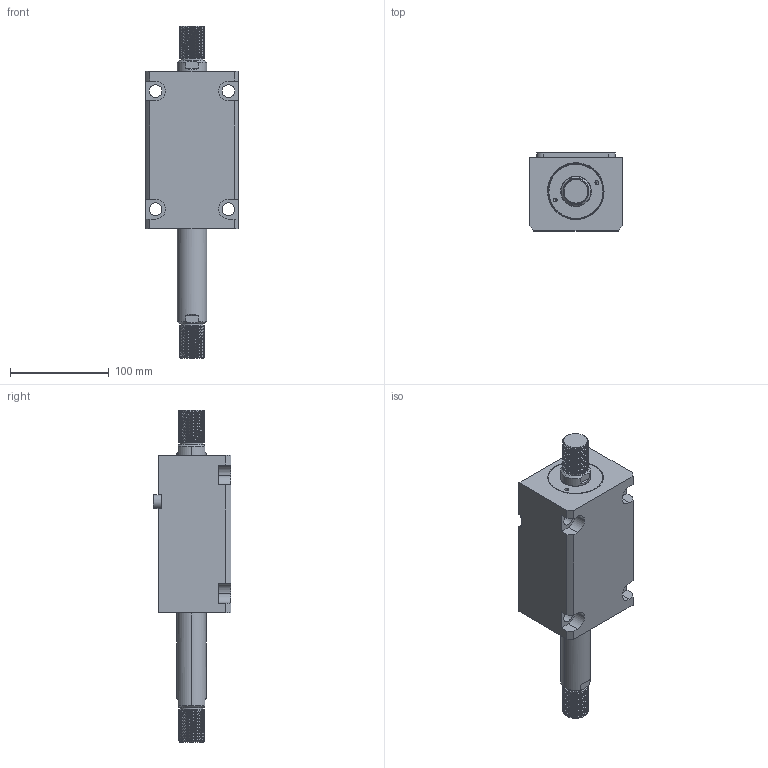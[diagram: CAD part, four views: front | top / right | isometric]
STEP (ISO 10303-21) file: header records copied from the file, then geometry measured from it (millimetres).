
FILE_DESCRIPTION (( 'STEP AP203' ), '1' );
FILE_NAME ('CHTB-LWM50-85W.STEP', '2018-05-22T06:43:06', ( '' ), ( '' ), 'SwSTEP 2.0', 'SolidWorks 2015', '' );
FILE_SCHEMA (( 'CONFIG_CONTROL_DESIGN' ));
Length unit declared in the file: millimetre
Products named in the file (4): 活塞杆LWM50-85W; CHTM-SDMA50QG; 掛极LWM50-85W; CHTB-LWM50-85W
Assembly tree (3 placements, depth 2):
  CHTB-LWM50-85W
    掛极LWM50-85W
    CHTM-SDMA50QG
    活塞杆LWM50-85W
Bounding box: 94 x 79 x 337 mm (x, y, z)
Volume: 1061725.9 mm3; surface area: 157294 mm2
Topology: 3 solids, 3 shells, 302 faces, 837 edges, 557 vertices
Faces by surface type: cylinder 188, plane 62, cone 18, bspline 18, torus 16
Entity records: 19248 total; most frequent: CARTESIAN_POINT 11864, ORIENTED_EDGE 1666, DIRECTION 1265, EDGE_CURVE 833, VERTEX_POINT 557, AXIS2_PLACEMENT_3D 483, EDGE_LOOP 338, ADVANCED_FACE 302
